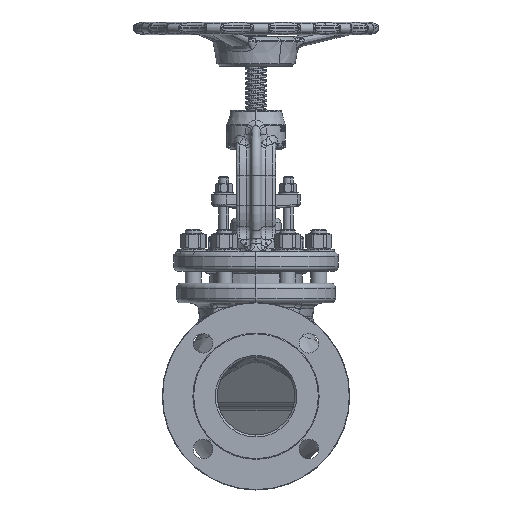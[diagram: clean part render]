
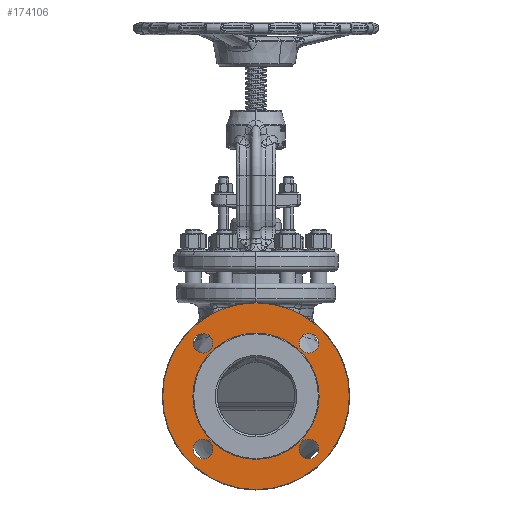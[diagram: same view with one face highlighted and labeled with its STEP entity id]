
A CAD part, left-side view. The second image highlights one B-rep face of the part: STEP entity #174106.
In plain terms, the highlighted planar face has unit normal (-1, 0, 0).
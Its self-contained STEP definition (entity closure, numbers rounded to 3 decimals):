
#42468=CARTESIAN_POINT('',(-118.9,0.,0.));
#42469=DIRECTION('',(-1.,0.,0.));
#42470=DIRECTION('',(0.,0.,1.));
#42471=AXIS2_PLACEMENT_3D('',#42468,#42469,#42470);
#42473=CARTESIAN_POINT('',(-118.9,0.,0.));
#42474=DIRECTION('',(1.,0.,0.));
#42475=DIRECTION('',(0.,0.,1.));
#42476=AXIS2_PLACEMENT_3D('',#42473,#42474,#42475);
#42478=CARTESIAN_POINT('',(-118.9,-53.882,53.882));
#42479=DIRECTION('',(1.,0.,0.));
#42480=DIRECTION('',(0.,1.,0.));
#42481=AXIS2_PLACEMENT_3D('',#42478,#42479,#42480);
#42483=CARTESIAN_POINT('',(-118.9,-53.882,53.882));
#42484=DIRECTION('',(1.,0.,0.));
#42485=DIRECTION('',(0.,-1.,0.));
#42486=AXIS2_PLACEMENT_3D('',#42483,#42484,#42485);
#42488=CARTESIAN_POINT('',(-118.9,-53.882,-53.882));
#42489=DIRECTION('',(1.,0.,0.));
#42490=DIRECTION('',(0.,1.,0.));
#42491=AXIS2_PLACEMENT_3D('',#42488,#42489,#42490);
#42493=CARTESIAN_POINT('',(-118.9,-53.882,-53.882));
#42494=DIRECTION('',(1.,0.,0.));
#42495=DIRECTION('',(0.,-1.,0.));
#42496=AXIS2_PLACEMENT_3D('',#42493,#42494,#42495);
#42498=CARTESIAN_POINT('',(-118.9,53.882,-53.882));
#42499=DIRECTION('',(1.,0.,0.));
#42500=DIRECTION('',(0.,1.,0.));
#42501=AXIS2_PLACEMENT_3D('',#42498,#42499,#42500);
#42503=CARTESIAN_POINT('',(-118.9,53.882,-53.882));
#42504=DIRECTION('',(1.,0.,0.));
#42505=DIRECTION('',(0.,-1.,0.));
#42506=AXIS2_PLACEMENT_3D('',#42503,#42504,#42505);
#42508=CARTESIAN_POINT('',(-118.9,53.882,53.882));
#42509=DIRECTION('',(1.,0.,0.));
#42510=DIRECTION('',(0.,1.,0.));
#42511=AXIS2_PLACEMENT_3D('',#42508,#42509,#42510);
#42513=CARTESIAN_POINT('',(-118.9,53.882,53.882));
#42514=DIRECTION('',(1.,0.,0.));
#42515=DIRECTION('',(0.,-1.,0.));
#42516=AXIS2_PLACEMENT_3D('',#42513,#42514,#42515);
#42518=CARTESIAN_POINT('',(-118.9,0.,0.));
#42519=DIRECTION('',(-1.,0.,0.));
#42520=DIRECTION('',(0.,0.,-1.));
#42521=AXIS2_PLACEMENT_3D('',#42518,#42519,#42520);
#42528=CARTESIAN_POINT('',(-118.9,0.,0.));
#42529=DIRECTION('',(-1.,0.,0.));
#42530=DIRECTION('',(0.,0.,1.));
#42531=AXIS2_PLACEMENT_3D('',#42528,#42529,#42530);
#107797=CARTESIAN_POINT('',(-118.9,-63.882,53.882));
#107798=VERTEX_POINT('',#107797);
#107799=CARTESIAN_POINT('',(-118.9,-43.882,53.882));
#107800=VERTEX_POINT('',#107799);
#107805=CARTESIAN_POINT('',(-118.9,-63.882,-53.882));
#107806=VERTEX_POINT('',#107805);
#107807=CARTESIAN_POINT('',(-118.9,-43.882,-53.882));
#107808=VERTEX_POINT('',#107807);
#107813=CARTESIAN_POINT('',(-118.9,43.882,-53.882));
#107814=VERTEX_POINT('',#107813);
#107815=CARTESIAN_POINT('',(-118.9,63.882,-53.882));
#107816=VERTEX_POINT('',#107815);
#107821=CARTESIAN_POINT('',(-118.9,43.882,53.882));
#107822=VERTEX_POINT('',#107821);
#107823=CARTESIAN_POINT('',(-118.9,63.882,53.882));
#107824=VERTEX_POINT('',#107823);
#109209=CARTESIAN_POINT('',(-118.9,0.,-95.054));
#109210=CARTESIAN_POINT('',(-118.9,0.,95.054));
#109211=VERTEX_POINT('',#109209);
#109212=VERTEX_POINT('',#109210);
#109630=CARTESIAN_POINT('',(-118.9,0.,64.3));
#109631=VERTEX_POINT('',#109630);
#109634=CARTESIAN_POINT('',(-118.9,0.,-64.3));
#109635=VERTEX_POINT('',#109634);
#174067=CARTESIAN_POINT('',(-118.9,0.,0.));
#174068=DIRECTION('',(-1.,0.,0.));
#174069=DIRECTION('',(0.,0.,1.));
#174070=AXIS2_PLACEMENT_3D('',#174067,#174068,#174069);
#174071=PLANE('',#174070);
#174073=ORIENTED_EDGE('',*,*,#174072,.F.);
#174075=ORIENTED_EDGE('',*,*,#174074,.F.);
#174076=EDGE_LOOP('',(#174073,#174075));
#174077=FACE_OUTER_BOUND('',#174076,.F.);
#174078=ORIENTED_EDGE('',*,*,#174049,.T.);
#174079=ORIENTED_EDGE('',*,*,#174060,.F.);
#174080=EDGE_LOOP('',(#174078,#174079));
#174081=FACE_BOUND('',#174080,.F.);
#174083=ORIENTED_EDGE('',*,*,#174082,.F.);
#174085=ORIENTED_EDGE('',*,*,#174084,.F.);
#174086=EDGE_LOOP('',(#174083,#174085));
#174087=FACE_BOUND('',#174086,.F.);
#174089=ORIENTED_EDGE('',*,*,#174088,.F.);
#174091=ORIENTED_EDGE('',*,*,#174090,.F.);
#174092=EDGE_LOOP('',(#174089,#174091));
#174093=FACE_BOUND('',#174092,.F.);
#174095=ORIENTED_EDGE('',*,*,#174094,.F.);
#174097=ORIENTED_EDGE('',*,*,#174096,.F.);
#174098=EDGE_LOOP('',(#174095,#174097));
#174099=FACE_BOUND('',#174098,.F.);
#174101=ORIENTED_EDGE('',*,*,#174100,.F.);
#174103=ORIENTED_EDGE('',*,*,#174102,.F.);
#174104=EDGE_LOOP('',(#174101,#174103));
#174105=FACE_BOUND('',#174104,.F.);
#174106=ADVANCED_FACE('',(#174077,#174081,#174087,#174093,#174099,#174105),
#174071,.T.);
#42472=CIRCLE('',#42471,64.3);
#42477=CIRCLE('',#42476,64.3);
#42482=CIRCLE('',#42481,10.);
#42487=CIRCLE('',#42486,10.);
#42492=CIRCLE('',#42491,10.);
#42497=CIRCLE('',#42496,10.);
#42502=CIRCLE('',#42501,10.);
#42507=CIRCLE('',#42506,10.);
#42512=CIRCLE('',#42511,10.);
#42517=CIRCLE('',#42516,10.);
#42522=CIRCLE('',#42521,95.054);
#42532=CIRCLE('',#42531,95.054);
#174049=EDGE_CURVE('',#109631,#109635,#42472,.T.);
#174060=EDGE_CURVE('',#109631,#109635,#42477,.T.);
#174072=EDGE_CURVE('',#109211,#109212,#42522,.T.);
#174074=EDGE_CURVE('',#109212,#109211,#42532,.T.);
#174082=EDGE_CURVE('',#107800,#107798,#42482,.T.);
#174084=EDGE_CURVE('',#107798,#107800,#42487,.T.);
#174088=EDGE_CURVE('',#107808,#107806,#42492,.T.);
#174090=EDGE_CURVE('',#107806,#107808,#42497,.T.);
#174094=EDGE_CURVE('',#107816,#107814,#42502,.T.);
#174096=EDGE_CURVE('',#107814,#107816,#42507,.T.);
#174100=EDGE_CURVE('',#107824,#107822,#42512,.T.);
#174102=EDGE_CURVE('',#107822,#107824,#42517,.T.);
